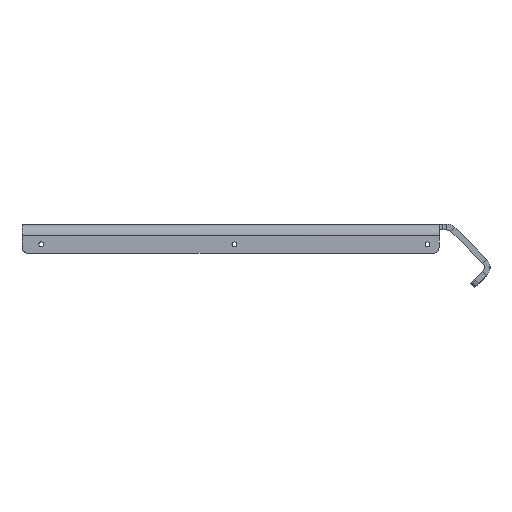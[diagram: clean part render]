
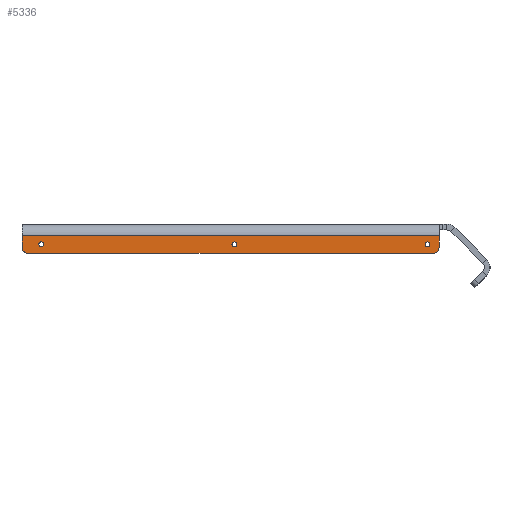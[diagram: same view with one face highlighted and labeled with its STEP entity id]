
A CAD part, left-side view. The second image highlights one B-rep face of the part: STEP entity #5336.
In plain terms, the highlighted planar face has unit normal (-1, 0, 0).
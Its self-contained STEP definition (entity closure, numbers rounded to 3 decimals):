
#134=FACE_BOUND('',#839,.T.);
#135=FACE_BOUND('',#840,.T.);
#136=FACE_BOUND('',#841,.T.);
#220=PLANE('',#5939);
#447=FACE_OUTER_BOUND('',#838,.T.);
#838=EDGE_LOOP('',(#4654,#4655,#4656,#4657,#4658,#4659));
#839=EDGE_LOOP('',(#4660));
#840=EDGE_LOOP('',(#4661));
#841=EDGE_LOOP('',(#4662));
#992=CIRCLE('',#5539,3.);
#998=CIRCLE('',#5548,3.);
#1231=CIRCLE('',#5922,1.265);
#1232=CIRCLE('',#5924,1.265);
#1233=CIRCLE('',#5926,1.265);
#1335=LINE('',#8016,#1788);
#1340=LINE('',#8035,#1793);
#1645=LINE('',#9085,#2098);
#1646=LINE('',#9088,#2099);
#1788=VECTOR('',#6342,10.);
#1793=VECTOR('',#6363,10.);
#2098=VECTOR('',#7436,10.);
#2099=VECTOR('',#7441,4.32);
#2167=VERTEX_POINT('',#7709);
#2278=VERTEX_POINT('',#8003);
#2279=VERTEX_POINT('',#8004);
#2283=VERTEX_POINT('',#8014);
#2289=VERTEX_POINT('',#8031);
#2644=VERTEX_POINT('',#9060);
#2645=VERTEX_POINT('',#9064);
#2646=VERTEX_POINT('',#9068);
#2650=VERTEX_POINT('',#9084);
#2812=EDGE_CURVE('',#2278,#2279,#992,.T.);
#2818=EDGE_CURVE('',#2278,#2283,#1335,.T.);
#2826=EDGE_CURVE('',#2289,#2283,#998,.T.);
#2828=EDGE_CURVE('',#2289,#2167,#1340,.T.);
#3359=EDGE_CURVE('',#2644,#2644,#1231,.T.);
#3361=EDGE_CURVE('',#2645,#2645,#1232,.T.);
#3363=EDGE_CURVE('',#2646,#2646,#1233,.T.);
#3371=EDGE_CURVE('',#2167,#2650,#1645,.T.);
#3373=EDGE_CURVE('',#2650,#2279,#1646,.T.);
#4654=ORIENTED_EDGE('',*,*,#2812,.F.);
#4655=ORIENTED_EDGE('',*,*,#2818,.T.);
#4656=ORIENTED_EDGE('',*,*,#2826,.F.);
#4657=ORIENTED_EDGE('',*,*,#2828,.T.);
#4658=ORIENTED_EDGE('',*,*,#3371,.T.);
#4659=ORIENTED_EDGE('',*,*,#3373,.T.);
#4660=ORIENTED_EDGE('',*,*,#3359,.T.);
#4661=ORIENTED_EDGE('',*,*,#3361,.T.);
#4662=ORIENTED_EDGE('',*,*,#3363,.T.);
#5336=ADVANCED_FACE('',(#447,#134,#135,#136),#220,.T.);
#5539=AXIS2_PLACEMENT_3D('',#8005,#6332,#6333);
#5548=AXIS2_PLACEMENT_3D('',#8032,#6358,#6359);
#5922=AXIS2_PLACEMENT_3D('',#9061,#7406,#7407);
#5924=AXIS2_PLACEMENT_3D('',#9065,#7411,#7412);
#5926=AXIS2_PLACEMENT_3D('',#9069,#7416,#7417);
#5939=AXIS2_PLACEMENT_3D('',#9094,#7450,#7451);
#6332=DIRECTION('center_axis',(1.,0.,0.));
#6333=DIRECTION('ref_axis',(0.,0.707,-0.707));
#6342=DIRECTION('',(0.,-1.,0.));
#6358=DIRECTION('center_axis',(1.,0.,0.));
#6359=DIRECTION('ref_axis',(0.,-0.707,-0.707));
#6363=DIRECTION('',(0.,0.,1.));
#7406=DIRECTION('center_axis',(1.,0.,0.));
#7407=DIRECTION('ref_axis',(0.,0.707,-0.707));
#7411=DIRECTION('center_axis',(1.,0.,0.));
#7412=DIRECTION('ref_axis',(0.,0.707,-0.707));
#7416=DIRECTION('center_axis',(1.,0.,0.));
#7417=DIRECTION('ref_axis',(0.,0.707,-0.707));
#7436=DIRECTION('',(0.,1.,0.));
#7441=DIRECTION('',(0.,0.,-1.));
#7450=DIRECTION('center_axis',(-1.,0.,0.));
#7451=DIRECTION('ref_axis',(0.,0.,1.));
#7709=CARTESIAN_POINT('',(-262.35,305.64,-6.));
#8003=CARTESIAN_POINT('',(-262.35,518.64,-15.));
#8004=CARTESIAN_POINT('',(-262.35,521.64,-12.));
#8005=CARTESIAN_POINT('Origin',(-262.35,518.64,-12.));
#8014=CARTESIAN_POINT('',(-262.35,308.64,-15.));
#8016=CARTESIAN_POINT('',(-262.35,305.64,-15.));
#8031=CARTESIAN_POINT('',(-262.35,305.64,-12.));
#8032=CARTESIAN_POINT('Origin',(-262.35,308.64,-12.));
#8035=CARTESIAN_POINT('',(-262.35,305.64,-6.));
#9060=CARTESIAN_POINT('',(-262.35,410.746,-9.606));
#9061=CARTESIAN_POINT('Origin',(-262.35,411.64,-10.5));
#9064=CARTESIAN_POINT('',(-262.35,510.746,-9.606));
#9065=CARTESIAN_POINT('Origin',(-262.35,511.64,-10.5));
#9068=CARTESIAN_POINT('',(-262.35,310.746,-9.606));
#9069=CARTESIAN_POINT('Origin',(-262.35,311.64,-10.5));
#9084=CARTESIAN_POINT('',(-262.35,521.64,-6.));
#9085=CARTESIAN_POINT('',(-262.35,413.64,-6.));
#9088=CARTESIAN_POINT('',(-262.35,521.64,7.572));
#9094=CARTESIAN_POINT('Origin',(-262.35,413.64,-7.107));
